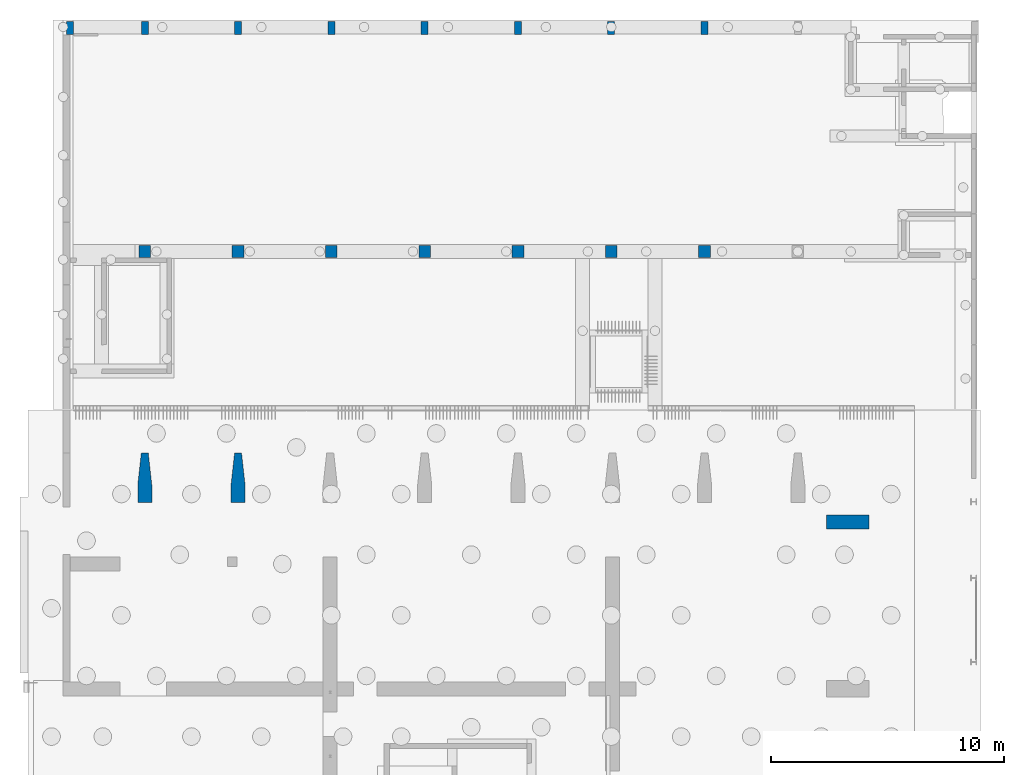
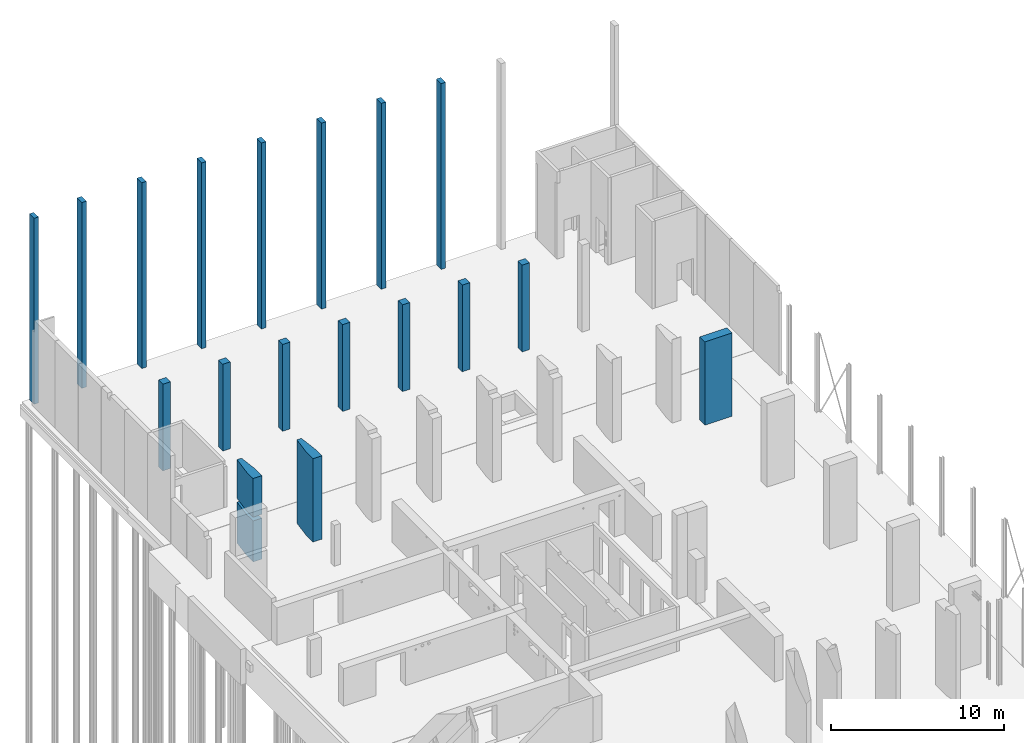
# One storey, part 14 of 26: 18 columns.
"""IFC2X3 building model written with IfcOpenShell, lengths in millimetres."""

from ifc_helpers import new_model, entity, si_unit, converted_unit, derived_unit, direction, frame, frame_2d, origin, origin_2d_with_axis, place, context, subcontext, project, spatial, polyline, rectangle, outline, extrude, source, transform, mapped, material, type_object, type_shapes, element, save


model = new_model("IFC2X3")

# Units and contexts
model_context = context("Model", 3, precision=0.01, world=origin(), true_north=direction((6.12303176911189e-17, 1.0)))
body_context = subcontext(model_context, "Body", "Model", "MODEL_VIEW")
ifc_project = project(units=[si_unit("LENGTHUNIT", "METRE", prefix="MILLI"), si_unit("AREAUNIT", "SQUARE_METRE"), si_unit("VOLUMEUNIT", "CUBIC_METRE"), converted_unit("PLANEANGLEUNIT", "DEGREE", entity("IfcRatioMeasure", 0.0174532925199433), si_unit("PLANEANGLEUNIT", "RADIAN"), dimensions=[0, 0, 0, 0, 0, 0, 0]), si_unit("MASSUNIT", "GRAM", prefix="KILO"), derived_unit("MASSDENSITYUNIT", [(si_unit("MASSUNIT", "GRAM", prefix="KILO"), 1), (si_unit("LENGTHUNIT", "METRE"), -3)]), si_unit("TIMEUNIT", "SECOND"), si_unit("FREQUENCYUNIT", "HERTZ"), si_unit("THERMODYNAMICTEMPERATUREUNIT", "DEGREE_CELSIUS"), derived_unit("THERMALTRANSMITTANCEUNIT", [(si_unit("MASSUNIT", "GRAM", prefix="KILO"), 1), (si_unit("THERMODYNAMICTEMPERATUREUNIT", "KELVIN"), -1), (si_unit("TIMEUNIT", "SECOND"), -3)]), derived_unit("VOLUMETRICFLOWRATEUNIT", [(si_unit("LENGTHUNIT", "METRE"), 3), (si_unit("TIMEUNIT", "SECOND"), -1)]), si_unit("ELECTRICCURRENTUNIT", "AMPERE"), si_unit("ELECTRICVOLTAGEUNIT", "VOLT"), si_unit("POWERUNIT", "WATT"), si_unit("FORCEUNIT", "NEWTON", prefix="KILO"), si_unit("ILLUMINANCEUNIT", "LUX"), si_unit("LUMINOUSFLUXUNIT", "LUMEN"), si_unit("LUMINOUSINTENSITYUNIT", "CANDELA"), derived_unit("USERDEFINED", [(si_unit("MASSUNIT", "GRAM", prefix="KILO"), -1), (si_unit("LENGTHUNIT", "METRE"), -2), (si_unit("TIMEUNIT", "SECOND"), 3), (si_unit("LUMINOUSFLUXUNIT", "LUMEN"), 1)]), derived_unit("LINEARVELOCITYUNIT", [(si_unit("LENGTHUNIT", "METRE"), 1), (si_unit("TIMEUNIT", "SECOND"), -1)]), si_unit("PRESSUREUNIT", "PASCAL"), derived_unit("USERDEFINED", [(si_unit("LENGTHUNIT", "METRE"), -2), (si_unit("MASSUNIT", "GRAM", prefix="KILO"), 1), (si_unit("TIMEUNIT", "SECOND"), -2)])], contexts=[model_context])

# Site, building, storey
site_placement = place(None, origin())
site = spatial("IfcSite", under=ifc_project, at=site_placement, Name="Default", CompositionType="ELEMENT")
building_placement = place(site_placement, origin())
building = spatial("IfcBuilding", under=site, at=building_placement, Name="niet gebruiken", CompositionType="ELEMENT")
storey_placement = place(building_placement, origin())
storey = spatial("IfcBuildingStorey", under=building, at=storey_placement, Name="00 begane grond", CompositionType="ELEMENT", Elevation=0.0)

# Columns
ifc_material_1 = material(Name="NLRS_f2_beton ihwg")
column_type_1 = type_object("IfcColumnType", Name="600x1820", PredefinedType="COLUMN", material=ifc_material_1)
shared_shape_1 = source(origin(), body_context, "Body", "SweptSolid", [
    extrude(rectangle(XDim=599.999999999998, YDim=1820.0, at=frame_2d((-4.34852154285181e-12, 0.0), x_axis=(1.0, 0.0))), frame((157890.0, 31900.0, -250.0), z_axis=(0.0, 0.0, 1.0), x_axis=(0.0, -1.0, 0.0)), (0.0, 0.0, 1.0), 5890.0),
])
type_shapes(column_type_1, [shared_shape_1])
column_1_placement = place(storey_placement, origin())
element("IfcColumn", 1, at=column_1_placement, inside=storey, type_object=column_type_1, material=ifc_material_1, Name="NLRS_28.11_SCO_TLB_beton kolom ihwg_gen:600x1820", ObjectType="600x1820", context=body_context, shape_type="MappedRepresentation", body=[
    mapped(shared_shape_1, transform((0.0, 0.0, 0.0), scale=1.0)),
])
column_type_2 = type_object("IfcColumnType", Name="600/300x2120/770", PredefinedType="COLUMN", material=ifc_material_1)
shared_shape_2 = source(origin(), body_context, "Body", "SweptSolid", [
    extrude(outline(polyline([(193.333333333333, -300.0), (963.333333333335, -300.0), (963.333333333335, 300.0), (193.333333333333, 300.0), (-1156.66666666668, 150.0), (-1156.66666666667, -150.0), (193.333333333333, -300.0)])), frame((131750.0, 33693.3333333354, -250.0), z_axis=(0.0, 0.0, 1.0), x_axis=(0.0, -1.0, 0.0)), (0.0, 0.0, 1.0), 5890.0),
])
type_shapes(column_type_2, [shared_shape_2])
column_2_placement = place(storey_placement, origin())
element("IfcColumn", 2, at=column_2_placement, inside=storey, type_object=column_type_2, material=ifc_material_1, Name="NLRS_28.11_SCO_TLB_beton kolom ihwg V vorm_gen:600/300x2120/770", ObjectType="600/300x2120/770", context=body_context, shape_type="MappedRepresentation", body=[
    mapped(shared_shape_2, transform((0.0, 0.0, 0.0), scale=1.0)),
])
column_type_3 = type_object("IfcColumnType", Name="600/300x2120/770", PredefinedType="COLUMN", material=ifc_material_1)
shared_shape_3 = source(origin(), body_context, "Body", "SweptSolid", [
    extrude(outline(polyline([(193.333333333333, -300.0), (963.333333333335, -300.0), (963.333333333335, 300.0), (193.333333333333, 300.0), (-1156.66666666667, 150.0), (-1156.66666666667, -150.0), (193.333333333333, -300.0)])), frame((127750.0, 33693.3333333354, -250.0), z_axis=(0.0, 0.0, 1.0), x_axis=(0.0, -1.0, 0.0)), (0.0, 0.0, 1.0), 2890.0),
    extrude(outline(polyline([(193.333333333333, -300.0), (963.333333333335, -300.0), (963.333333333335, 300.0), (193.333333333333, 300.0), (-1156.66666666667, 150.0), (-1156.66666666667, -150.0), (193.333333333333, -300.0)])), frame((127750.0, 33693.3333333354, 2910.0), z_axis=(0.0, 0.0, 1.0), x_axis=(0.0, -1.0, 0.0)), (0.0, 0.0, 1.0), 2730.0),
])
type_shapes(column_type_3, [shared_shape_3])
column_3_placement = place(storey_placement, origin())
element("IfcColumn", 3, at=column_3_placement, inside=storey, type_object=column_type_3, material=ifc_material_1, Name="NLRS_28.11_SCO_TLB_beton kolom ihwg V vorm_gen:600/300x2120/770", ObjectType="600/300x2120/770", context=body_context, shape_type="MappedRepresentation", body=[
    mapped(shared_shape_3, transform((0.0, 0.0, 0.0), scale=1.0)),
])
ifc_material_2 = material(Name="NLRS_f2_beton prefab")
column_type_4 = type_object("IfcColumnType", Name="500x500", PredefinedType="COLUMN", material=ifc_material_2)
shared_shape_4 = source(origin(), body_context, "Body", "SweptSolid", [
    extrude(rectangle(XDim=499.999999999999, YDim=500.000000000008, at=frame_2d((0.0, 1.73230318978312e-11), x_axis=(1.0, 0.0))), frame((131750.0, 43500.0, -220.0), z_axis=(0.0, 0.0, 1.0), x_axis=(0.0, -1.0, 0.0)), (0.0, 0.0, 1.0), 6130.0),
])
type_shapes(column_type_4, [shared_shape_4])
column_4_placement = place(storey_placement, origin())
element("IfcColumn", 4, at=column_4_placement, inside=storey, type_object=column_type_4, material=ifc_material_2, Name="NLRS_28. kolom vierkant_gen:500x500", ObjectType="500x500", context=body_context, shape_type="MappedRepresentation", body=[
    mapped(shared_shape_4, transform((0.0, 0.0, 0.0), scale=1.0)),
])
column_type_5 = type_object("IfcColumnType", Name="500x500", PredefinedType="COLUMN", material=ifc_material_2)
shared_shape_5 = source(origin(), body_context, "Body", "SweptSolid", [
    extrude(rectangle(XDim=499.999999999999, YDim=500.000000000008, at=origin_2d_with_axis()), frame((127750.0, 43500.0, -220.0), z_axis=(0.0, 0.0, 1.0), x_axis=(0.0, -1.0, 0.0)), (0.0, 0.0, 1.0), 6130.0),
])
type_shapes(column_type_5, [shared_shape_5])
column_5_placement = place(storey_placement, origin())
element("IfcColumn", 5, at=column_5_placement, inside=storey, type_object=column_type_5, material=ifc_material_2, Name="NLRS_28. kolom vierkant_gen:500x500", ObjectType="500x500", context=body_context, shape_type="MappedRepresentation", body=[
    mapped(shared_shape_5, transform((0.0, 0.0, 0.0), scale=1.0)),
])
column_type_6 = type_object("IfcColumnType", Name="500x500", PredefinedType="COLUMN", material=ifc_material_2)
shared_shape_6 = source(origin(), body_context, "Body", "SweptSolid", [
    extrude(rectangle(XDim=499.999999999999, YDim=500.000000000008, at=origin_2d_with_axis()), frame((135750.0, 43500.0, -220.0), z_axis=(0.0, 0.0, 1.0), x_axis=(0.0, -1.0, 0.0)), (0.0, 0.0, 1.0), 6130.0),
])
type_shapes(column_type_6, [shared_shape_6])
column_6_placement = place(storey_placement, origin())
element("IfcColumn", 6, at=column_6_placement, inside=storey, type_object=column_type_6, material=ifc_material_2, Name="NLRS_28. kolom vierkant_gen:500x500", ObjectType="500x500", context=body_context, shape_type="MappedRepresentation", body=[
    mapped(shared_shape_6, transform((0.0, 0.0, 0.0), scale=1.0)),
])
column_type_7 = type_object("IfcColumnType", Name="500x500", PredefinedType="COLUMN", material=ifc_material_2)
shared_shape_7 = source(origin(), body_context, "Body", "SweptSolid", [
    extrude(rectangle(XDim=499.999999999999, YDim=500.000000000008, at=origin_2d_with_axis()), frame((139750.0, 43500.0, -220.0), z_axis=(0.0, 0.0, 1.0), x_axis=(0.0, -1.0, 0.0)), (0.0, 0.0, 1.0), 6130.0),
])
type_shapes(column_type_7, [shared_shape_7])
column_7_placement = place(storey_placement, origin())
element("IfcColumn", 7, at=column_7_placement, inside=storey, type_object=column_type_7, material=ifc_material_2, Name="NLRS_28. kolom vierkant_gen:500x500", ObjectType="500x500", context=body_context, shape_type="MappedRepresentation", body=[
    mapped(shared_shape_7, transform((0.0, 0.0, 0.0), scale=1.0)),
])
column_type_8 = type_object("IfcColumnType", Name="500x500", PredefinedType="COLUMN", material=ifc_material_2)
shared_shape_8 = source(origin(), body_context, "Body", "SweptSolid", [
    extrude(rectangle(XDim=499.999999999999, YDim=500.000000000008, at=origin_2d_with_axis()), frame((143750.0, 43500.0, -220.0), z_axis=(0.0, 0.0, 1.0), x_axis=(0.0, -1.0, 0.0)), (0.0, 0.0, 1.0), 6130.0),
])
type_shapes(column_type_8, [shared_shape_8])
column_8_placement = place(storey_placement, origin())
element("IfcColumn", 8, at=column_8_placement, inside=storey, type_object=column_type_8, material=ifc_material_2, Name="NLRS_28. kolom vierkant_gen:500x500", ObjectType="500x500", context=body_context, shape_type="MappedRepresentation", body=[
    mapped(shared_shape_8, transform((0.0, 0.0, 0.0), scale=1.0)),
])
column_type_9 = type_object("IfcColumnType", Name="500x500", PredefinedType="COLUMN", material=ifc_material_2)
shared_shape_9 = source(origin(), body_context, "Body", "SweptSolid", [
    extrude(rectangle(XDim=499.999999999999, YDim=500.000000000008, at=origin_2d_with_axis()), frame((147750.0, 43500.0, -220.0), z_axis=(0.0, 0.0, 1.0), x_axis=(0.0, -1.0, 0.0)), (0.0, 0.0, 1.0), 6130.0),
])
type_shapes(column_type_9, [shared_shape_9])
column_9_placement = place(storey_placement, origin())
element("IfcColumn", 9, at=column_9_placement, inside=storey, type_object=column_type_9, material=ifc_material_2, Name="NLRS_28. kolom vierkant_gen:500x500", ObjectType="500x500", context=body_context, shape_type="MappedRepresentation", body=[
    mapped(shared_shape_9, transform((0.0, 0.0, 0.0), scale=1.0)),
])
column_type_10 = type_object("IfcColumnType", Name="500x500", PredefinedType="COLUMN", material=ifc_material_2)
shared_shape_10 = source(origin(), body_context, "Body", "SweptSolid", [
    extrude(rectangle(XDim=499.999999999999, YDim=500.000000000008, at=origin_2d_with_axis()), frame((151750.0, 43500.0, -220.0), z_axis=(0.0, 0.0, 1.0), x_axis=(0.0, -1.0, 0.0)), (0.0, 0.0, 1.0), 6130.0),
])
type_shapes(column_type_10, [shared_shape_10])
column_10_placement = place(storey_placement, origin())
element("IfcColumn", 10, at=column_10_placement, inside=storey, type_object=column_type_10, material=ifc_material_2, Name="NLRS_28. kolom vierkant_gen:500x500", ObjectType="500x500", context=body_context, shape_type="MappedRepresentation", body=[
    mapped(shared_shape_10, transform((0.0, 0.0, 0.0), scale=1.0)),
])
column_type_11 = type_object("IfcColumnType", Name="300x550", PredefinedType="COLUMN", material=ifc_material_2)
shared_shape_11 = source(origin(), body_context, "Body", "SweptSolid", [
    extrude(rectangle(XDim=549.999999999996, YDim=300.000000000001, at=origin_2d_with_axis()), frame((127750.0, 53075.0, -220.0), z_axis=(0.0, 0.0, 1.0), x_axis=(0.0, -1.0, 0.0)), (0.0, 0.0, 1.0), 13130.0),
])
type_shapes(column_type_11, [shared_shape_11])
column_11_placement = place(storey_placement, origin())
element("IfcColumn", 11, at=column_11_placement, inside=storey, type_object=column_type_11, material=ifc_material_2, Name="NLRS_28. kolom vierkant_gen:300x550", ObjectType="300x550", context=body_context, shape_type="MappedRepresentation", body=[
    mapped(shared_shape_11, transform((0.0, 0.0, 0.0), scale=1.0)),
])
column_type_12 = type_object("IfcColumnType", Name="300x550", PredefinedType="COLUMN", material=ifc_material_2)
shared_shape_12 = source(origin(), body_context, "Body", "SweptSolid", [
    extrude(rectangle(XDim=549.999999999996, YDim=300.000000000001, at=origin_2d_with_axis()), frame((124550.0, 53075.0, -220.0), z_axis=(0.0, 0.0, 1.0), x_axis=(0.0, -1.0, 0.0)), (0.0, 0.0, 1.0), 13130.0),
])
type_shapes(column_type_12, [shared_shape_12])
column_12_placement = place(storey_placement, origin())
element("IfcColumn", 12, at=column_12_placement, inside=storey, type_object=column_type_12, material=ifc_material_2, Name="NLRS_28. kolom vierkant_gen:300x550", ObjectType="300x550", context=body_context, shape_type="MappedRepresentation", body=[
    mapped(shared_shape_12, transform((0.0, 0.0, 0.0), scale=1.0)),
])
column_type_13 = type_object("IfcColumnType", Name="300x550", PredefinedType="COLUMN", material=ifc_material_2)
shared_shape_13 = source(origin(), body_context, "Body", "SweptSolid", [
    extrude(rectangle(XDim=549.999999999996, YDim=300.000000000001, at=origin_2d_with_axis()), frame((131750.0, 53075.0, -220.0), z_axis=(0.0, 0.0, 1.0), x_axis=(0.0, -1.0, 0.0)), (0.0, 0.0, 1.0), 13130.0),
])
type_shapes(column_type_13, [shared_shape_13])
column_13_placement = place(storey_placement, origin())
element("IfcColumn", 13, at=column_13_placement, inside=storey, type_object=column_type_13, material=ifc_material_2, Name="NLRS_28. kolom vierkant_gen:300x550", ObjectType="300x550", context=body_context, shape_type="MappedRepresentation", body=[
    mapped(shared_shape_13, transform((0.0, 0.0, 0.0), scale=1.0)),
])
column_type_14 = type_object("IfcColumnType", Name="300x550", PredefinedType="COLUMN", material=ifc_material_2)
shared_shape_14 = source(origin(), body_context, "Body", "SweptSolid", [
    extrude(rectangle(XDim=549.999999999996, YDim=300.000000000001, at=origin_2d_with_axis()), frame((135750.0, 53075.0, -220.0), z_axis=(0.0, 0.0, 1.0), x_axis=(0.0, -1.0, 0.0)), (0.0, 0.0, 1.0), 13130.0),
])
type_shapes(column_type_14, [shared_shape_14])
column_14_placement = place(storey_placement, origin())
element("IfcColumn", 14, at=column_14_placement, inside=storey, type_object=column_type_14, material=ifc_material_2, Name="NLRS_28. kolom vierkant_gen:300x550", ObjectType="300x550", context=body_context, shape_type="MappedRepresentation", body=[
    mapped(shared_shape_14, transform((0.0, 0.0, 0.0), scale=1.0)),
])
column_type_15 = type_object("IfcColumnType", Name="300x550", PredefinedType="COLUMN", material=ifc_material_2)
shared_shape_15 = source(origin(), body_context, "Body", "SweptSolid", [
    extrude(rectangle(XDim=549.999999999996, YDim=300.000000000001, at=origin_2d_with_axis()), frame((139750.0, 53075.0, -220.0), z_axis=(0.0, 0.0, 1.0), x_axis=(0.0, -1.0, 0.0)), (0.0, 0.0, 1.0), 13130.0),
])
type_shapes(column_type_15, [shared_shape_15])
column_15_placement = place(storey_placement, origin())
element("IfcColumn", 15, at=column_15_placement, inside=storey, type_object=column_type_15, material=ifc_material_2, Name="NLRS_28. kolom vierkant_gen:300x550", ObjectType="300x550", context=body_context, shape_type="MappedRepresentation", body=[
    mapped(shared_shape_15, transform((0.0, 0.0, 0.0), scale=1.0)),
])
column_type_16 = type_object("IfcColumnType", Name="300x550", PredefinedType="COLUMN", material=ifc_material_2)
shared_shape_16 = source(origin(), body_context, "Body", "SweptSolid", [
    extrude(rectangle(XDim=549.999999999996, YDim=300.000000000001, at=frame_2d((8.64019966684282e-12, 0.0), x_axis=(1.0, 0.0))), frame((143750.0, 53075.0, -220.0), z_axis=(0.0, 0.0, 1.0), x_axis=(0.0, -1.0, 0.0)), (0.0, 0.0, 1.0), 13130.0),
])
type_shapes(column_type_16, [shared_shape_16])
column_16_placement = place(storey_placement, origin())
element("IfcColumn", 16, at=column_16_placement, inside=storey, type_object=column_type_16, material=ifc_material_2, Name="NLRS_28. kolom vierkant_gen:300x550", ObjectType="300x550", context=body_context, shape_type="MappedRepresentation", body=[
    mapped(shared_shape_16, transform((0.0, 0.0, 0.0), scale=1.0)),
])
column_type_17 = type_object("IfcColumnType", Name="300x550", PredefinedType="COLUMN", material=ifc_material_2)
shared_shape_17 = source(origin(), body_context, "Body", "SweptSolid", [
    extrude(rectangle(XDim=549.999999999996, YDim=300.000000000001, at=origin_2d_with_axis()), frame((147750.0, 53075.0, -220.0), z_axis=(0.0, 0.0, 1.0), x_axis=(0.0, -1.0, 0.0)), (0.0, 0.0, 1.0), 13130.0),
])
type_shapes(column_type_17, [shared_shape_17])
column_17_placement = place(storey_placement, origin())
element("IfcColumn", 17, at=column_17_placement, inside=storey, type_object=column_type_17, material=ifc_material_2, Name="NLRS_28. kolom vierkant_gen:300x550", ObjectType="300x550", context=body_context, shape_type="MappedRepresentation", body=[
    mapped(shared_shape_17, transform((0.0, 0.0, 0.0), scale=1.0)),
])
column_type_18 = type_object("IfcColumnType", Name="300x550", PredefinedType="COLUMN", material=ifc_material_2)
shared_shape_18 = source(origin(), body_context, "Body", "SweptSolid", [
    extrude(rectangle(XDim=549.999999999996, YDim=300.000000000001, at=origin_2d_with_axis()), frame((151750.0, 53075.0, -220.0), z_axis=(0.0, 0.0, 1.0), x_axis=(0.0, -1.0, 0.0)), (0.0, 0.0, 1.0), 13130.0),
])
type_shapes(column_type_18, [shared_shape_18])
column_18_placement = place(storey_placement, origin())
element("IfcColumn", 18, at=column_18_placement, inside=storey, type_object=column_type_18, material=ifc_material_2, Name="NLRS_28. kolom vierkant_gen:300x550", ObjectType="300x550", context=body_context, shape_type="MappedRepresentation", body=[
    mapped(shared_shape_18, transform((0.0, 0.0, 0.0), scale=1.0)),
])

save(model, "model.ifc")
